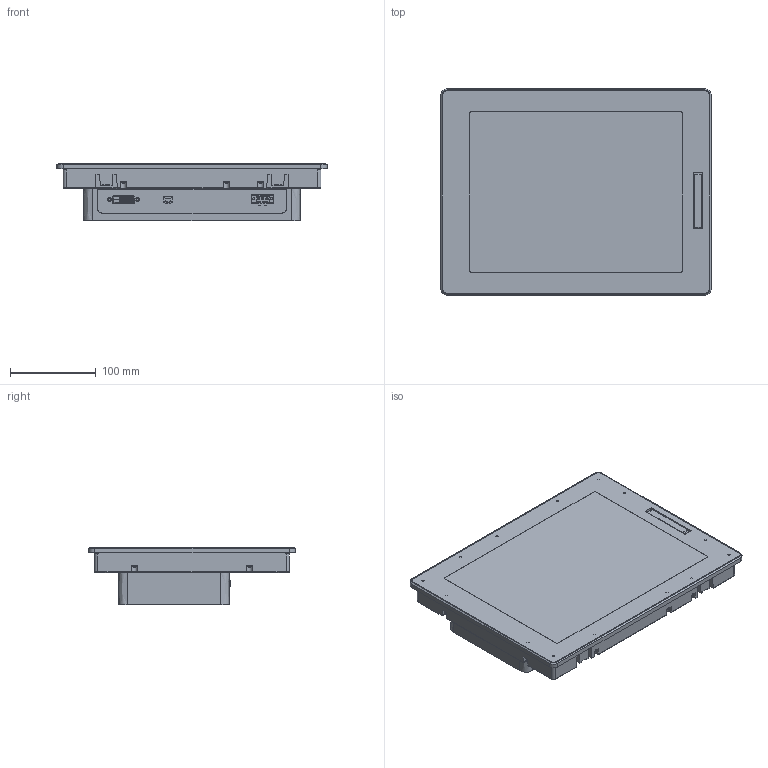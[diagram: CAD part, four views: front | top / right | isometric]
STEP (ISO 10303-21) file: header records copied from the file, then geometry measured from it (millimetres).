
FILE_DESCRIPTION((''),'2;1');
FILE_NAME('SIMPL_ASM_1_ASM_1_ASM_1_ASM','2021-06-02T09:32:41',('danae.lavaud'),(''),'CREO PARAMETRIC BY PTC INC, 2018260','CREO PARAMETRIC BY PTC INC, 2018260','');
FILE_SCHEMA(('CONFIG_CONTROL_DESIGN'));
Length unit declared in the file: inch
Products named in the file (12): PRT0001_1_1_1; HRB1948901_1_1_1_1_1_1_1; SCREW_MSC_XREC_PAN_M3X36_1_1_1_; HUA1256901_1_1_1_1_1_1_1; HUA1145401_1_1_1_1_1_1_1; ASM0005_ASM_1_ASM_1_ASM_1_ASM; PRT0001_1_1_1_1_1_1_7_1; DISPLAY_ADAPTER_20200611_1_2_10; DISPLAY_ADAPTER_20200611_1_2_12; DISPLAY_ADAPTER_20200611_1_2_11_ASM; BROCHE_ASM_1_ASM_1_ASM; SIMPL_ASM_1_ASM_1_ASM_1_ASM
Assembly tree (35 placements, depth 4):
  SIMPL_ASM_1_ASM_1_ASM_1_ASM
    PRT0001_1_1_1
    HRB1948901_1_1_1_1_1_1_1
    ASM0005_ASM_1_ASM_1_ASM_1_ASM
      SCREW_MSC_XREC_PAN_M3X36_1_1_1_  x6
      HUA1256901_1_1_1_1_1_1_1  x14
      HUA1145401_1_1_1_1_1_1_1  x7
    PRT0001_1_1_1_1_1_1_7_1
    BROCHE_ASM_1_ASM_1_ASM
      DISPLAY_ADAPTER_20200611_1_2_11_ASM
        DISPLAY_ADAPTER_20200611_1_2_10
        DISPLAY_ADAPTER_20200611_1_2_12
Bounding box: 315 x 241 x 67.5 mm (x, y, z)
Volume: 3234753.7 mm3; surface area: 316854.3 mm2
Topology: 32 solids, 57 shells, 4218 faces, 12013 edges, 7764 vertices
Faces by surface type: plane 2443, cylinder 1313, cone 239, torus 133, sphere 58, bspline 24, extrusion 8
Entity records: 114530 total; most frequent: CARTESIAN_POINT 25318, ORIENTED_EDGE 19356, DIRECTION 17644, EDGE_CURVE 9695, VECTOR 7136, LINE 7128, VERTEX_POINT 6325, AXIS2_PLACEMENT_3D 5254
